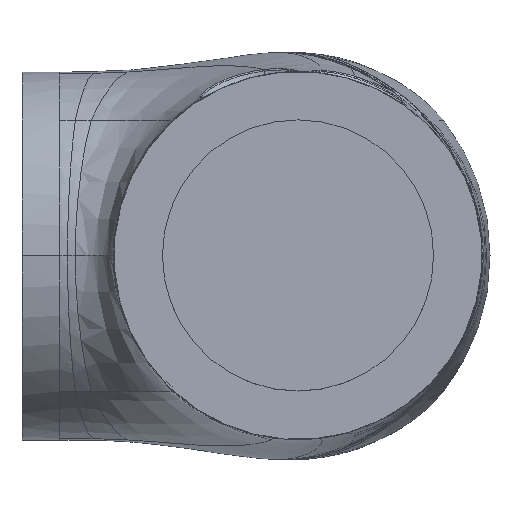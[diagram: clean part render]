
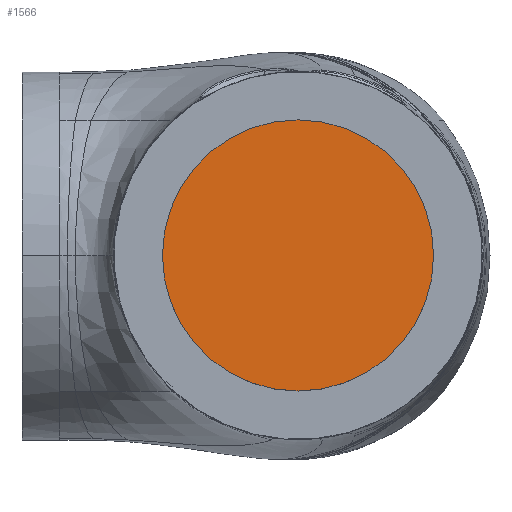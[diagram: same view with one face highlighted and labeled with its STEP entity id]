
A CAD part, top view. The second image highlights one B-rep face of the part: STEP entity #1566.
In plain terms, the highlighted planar face has unit normal (0, 0, 1).
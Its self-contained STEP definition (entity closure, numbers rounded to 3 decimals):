
#1566=ADVANCED_FACE('1300_MODEL-C006',(#2044),#7617,.T.);
#2044=FACE_OUTER_BOUND('',#7524,.T.);
#2385=CIRCLE('',#26744,35.);
#2386=CIRCLE('',#26746,35.);
#4677=ORIENTED_EDGE('',*,*,#5853,.T.);
#4678=ORIENTED_EDGE('',*,*,#5852,.T.);
#5852=EDGE_CURVE('1145',#7038,#7039,#2385,.T.);
#5853=EDGE_CURVE('1147',#7039,#7038,#2386,.T.);
#7038=VERTEX_POINT('683',#26213);
#7039=VERTEX_POINT('682',#26214);
#7524=EDGE_LOOP('',(#4677,#4678));
#7617=PLANE('',#26747);
#26213=CARTESIAN_POINT('',(100.,895.,674.5));
#26214=CARTESIAN_POINT('',(100.,965.,674.5));
#26215=CARTESIAN_POINT('',(100.,930.,674.5));
#26217=CARTESIAN_POINT('',(64.5,965.5,674.5));
#26744=AXIS2_PLACEMENT_3D('',#26215,#26750,#26752);
#26746=AXIS2_PLACEMENT_3D('',#26215,#26750,#26779);
#26747=AXIS2_PLACEMENT_3D('',#26217,#26750,#26752);
#26750=DIRECTION('',(0.,0.,1.));
#26752=DIRECTION('',(0.,-1.,0.));
#26779=DIRECTION('',(0.,1.,0.));
